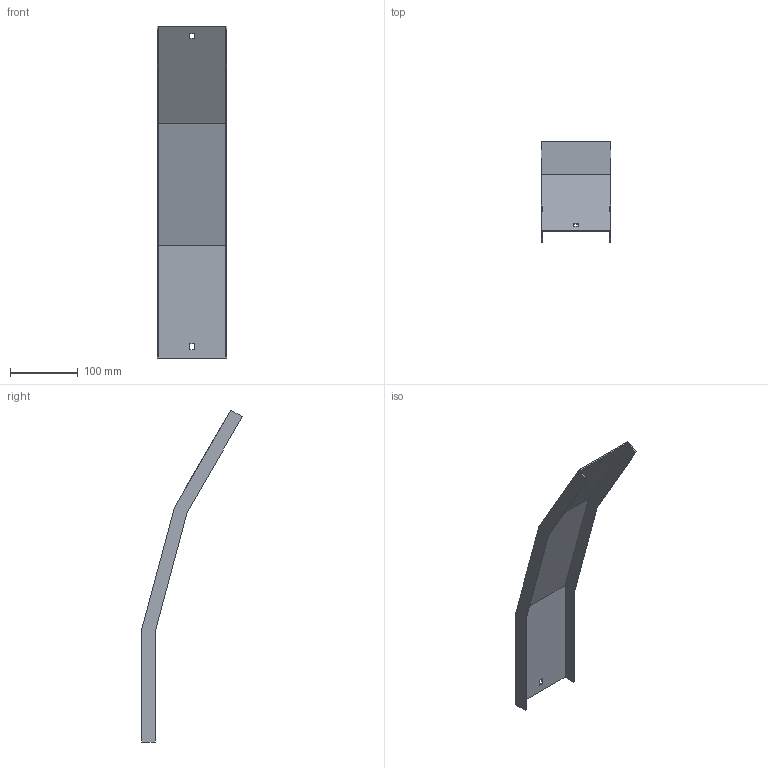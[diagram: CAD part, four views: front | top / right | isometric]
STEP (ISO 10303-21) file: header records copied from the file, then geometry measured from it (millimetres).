
FILE_DESCRIPTION (( 'STEP AP214' ), '1' );
FILE_NAME ('A2_35N3D100.step', '2025-02-21T10:30:36', ( '' ), ( '' ), 'SwSTEP 2.0', 'SolidWorks 2023', '' );
FILE_SCHEMA (( 'AUTOMOTIVE_DESIGN' ));
Length unit declared in the file: millimetre
Products named in the file (1): A2_35N3D100
Bounding box: 103 x 148.61 x 489.96 mm (x, y, z)
Volume: 108341.1 mm3; surface area: 146492.9 mm2
Topology: 1 solids, 1 shells, 26 faces, 72 edges, 48 vertices
Faces by surface type: plane 26
Entity records: 847 total; most frequent: CARTESIAN_POINT 147, ORIENTED_EDGE 144, DIRECTION 126, VECTOR 72, EDGE_CURVE 72, LINE 72, VERTEX_POINT 48, EDGE_LOOP 30
